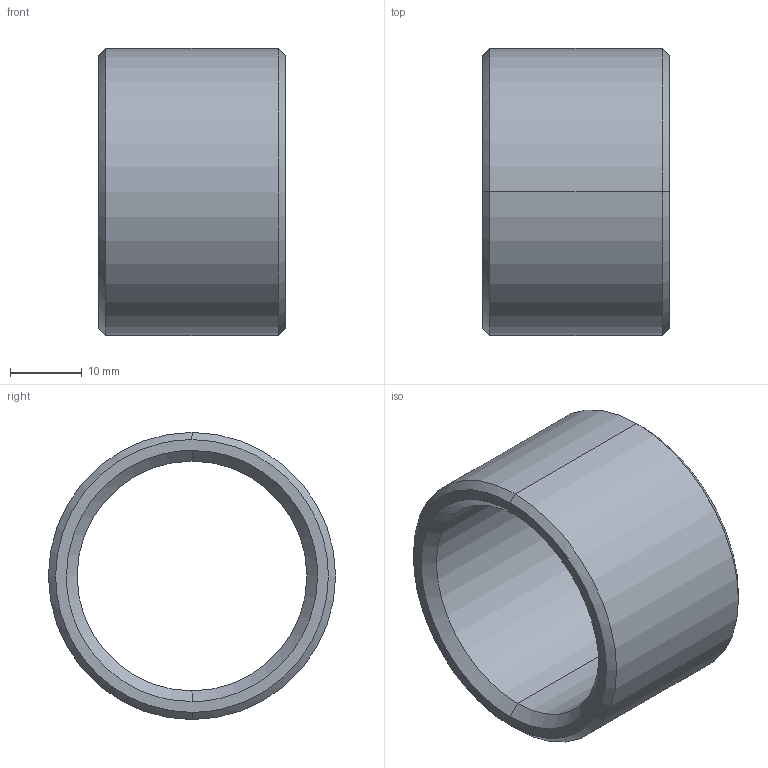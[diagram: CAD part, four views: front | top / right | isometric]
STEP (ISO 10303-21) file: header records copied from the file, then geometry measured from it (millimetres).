
FILE_DESCRIPTION(('CATIA V5 STEP Exchange'),'2;1');
FILE_NAME('C:\Users\Utente\Desktop\IO LAVORO\3D X SITO CF\X SITO\PLASTICA\352\352-32X26.stp','2021-04-14T15:03:49+00:00',('none'),('none'),'CATIA Version 5 Release 20 GA (IN-10)','CATIA V5 STEP AP203','none');
FILE_SCHEMA(('CONFIG_CONTROL_DESIGN'));
Length unit declared in the file: millimetre
Products named in the file (1): 352-32X26
Bounding box: 26 x 40 x 40 mm (x, y, z)
Volume: 11500 mm3; surface area: 6507.9 mm2
Topology: 1 solids, 1 shells, 14 faces, 44 edges, 32 vertices
Faces by surface type: cone 6, cylinder 4, plane 2, torus 2
Entity records: 634 total; most frequent: CARTESIAN_POINT 203, ORIENTED_EDGE 88, DIRECTION 64, EDGE_CURVE 44, AXIS2_PLACEMENT_3D 41, VERTEX_POINT 32, CIRCLE 26, EDGE_LOOP 16
